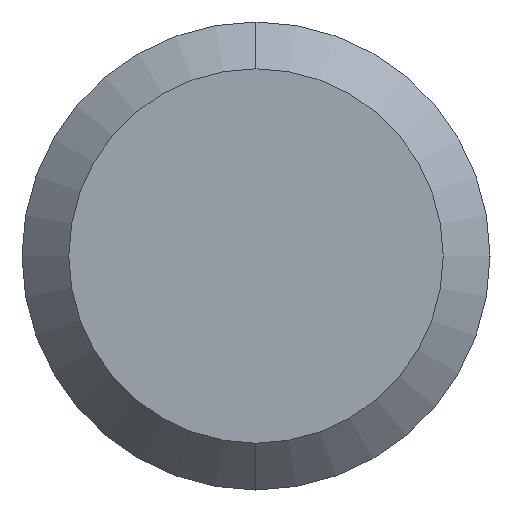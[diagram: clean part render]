
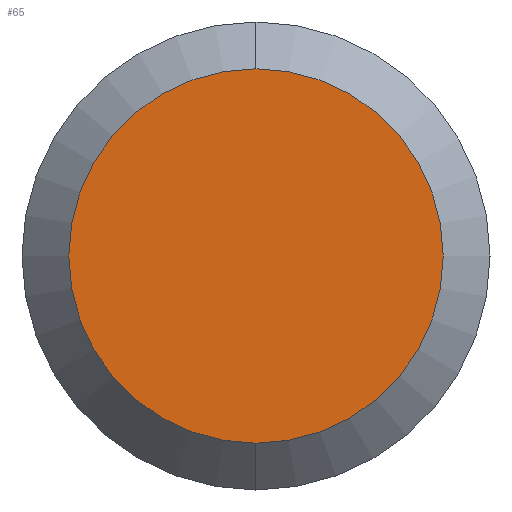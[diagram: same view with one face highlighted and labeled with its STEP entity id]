
A CAD part, left-side view. The second image highlights one B-rep face of the part: STEP entity #65.
In plain terms, the highlighted planar face has unit normal (-1, 0, 0).
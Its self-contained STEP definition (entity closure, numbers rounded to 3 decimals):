
#9 = DIRECTION ( 'NONE',  ( 1., 0., 0. ) ) ;
#18 = ORIENTED_EDGE ( 'NONE', *, *, #206, .T. ) ;
#38 = EDGE_LOOP ( 'NONE', ( #189, #18 ) ) ;
#47 = CARTESIAN_POINT ( 'NONE',  ( 0., 3.2, 0. ) ) ;
#65 = ADVANCED_FACE ( 'NONE', ( #82 ), #381, .F. ) ;
#82 = FACE_OUTER_BOUND ( 'NONE', #38, .T. ) ;
#92 = CIRCLE ( 'NONE', #368, 3.2 ) ;
#122 = DIRECTION ( 'NONE',  ( 0., 0., 1. ) ) ;
#153 = DIRECTION ( 'NONE',  ( -1., 0., 0. ) ) ;
#177 = DIRECTION ( 'NONE',  ( 0., 0., -1. ) ) ;
#189 = ORIENTED_EDGE ( 'NONE', *, *, #390, .T. ) ;
#206 = EDGE_CURVE ( 'NONE', #226, #208, #92, .T. ) ;
#208 = VERTEX_POINT ( 'NONE', #231 ) ;
#216 = CIRCLE ( 'NONE', #338, 3.2 ) ;
#226 = VERTEX_POINT ( 'NONE', #433 ) ;
#231 = CARTESIAN_POINT ( 'NONE',  ( 0., 0., -3.2 ) ) ;
#307 = DIRECTION ( 'NONE',  ( 0., 0., 1. ) ) ;
#335 = AXIS2_PLACEMENT_3D ( 'NONE', #47, #9, #177 ) ;
#338 = AXIS2_PLACEMENT_3D ( 'NONE', #376, #416, #307 ) ;
#358 = CARTESIAN_POINT ( 'NONE',  ( 0., 0., 0. ) ) ;
#368 = AXIS2_PLACEMENT_3D ( 'NONE', #358, #153, #122 ) ;
#376 = CARTESIAN_POINT ( 'NONE',  ( 0., 0., 0. ) ) ;
#381 = PLANE ( 'NONE',  #335 ) ;
#390 = EDGE_CURVE ( 'NONE', #208, #226, #216, .T. ) ;
#416 = DIRECTION ( 'NONE',  ( -1., 0., 0. ) ) ;
#433 = CARTESIAN_POINT ( 'NONE',  ( 0., 0., 3.2 ) ) ;
